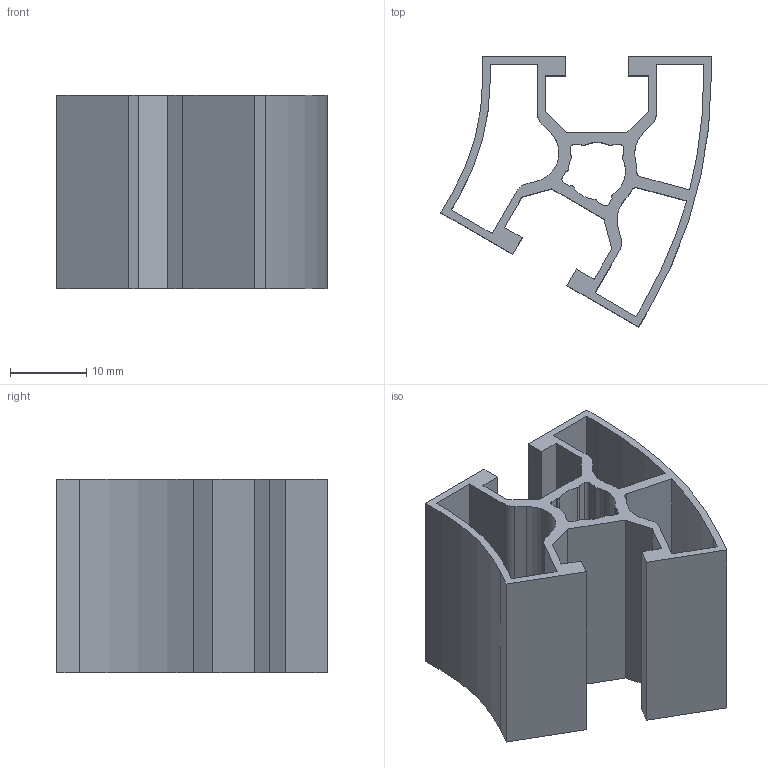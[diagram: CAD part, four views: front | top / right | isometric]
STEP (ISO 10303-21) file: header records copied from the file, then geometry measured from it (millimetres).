
FILE_DESCRIPTION((''),'2;1');
FILE_NAME('C:\Andys Backup Data\WEBSITE\DREAMWEAVER\MiniTec\Products\30 SERIES PROFILES\CAD\STEP\20.1134 30 R 30.stp','2016-08-10T10:20:57',('amoles'),(''),'Autodesk Inventor 2012','Autodesk Inventor 2012','');
FILE_SCHEMA(('AUTOMOTIVE_DESIGN { 1 0 10303 214 1 1 1 1 }'));
Length unit declared in the file: inch
Products named in the file (1): 20.1134 30 R 30
Bounding box: 35.49 x 35.49 x 25.4 mm (x, y, z)
Volume: 5742.6 mm3; surface area: 9404.7 mm2
Topology: 1 solids, 1 shells, 94 faces, 276 edges, 184 vertices
Faces by surface type: plane 62, cylinder 32
Entity records: 3168 total; most frequent: CARTESIAN_POINT 555, ORIENTED_EDGE 552, DIRECTION 530, EDGE_CURVE 276, VECTOR 212, LINE 212, VERTEX_POINT 184, AXIS2_PLACEMENT_3D 159
